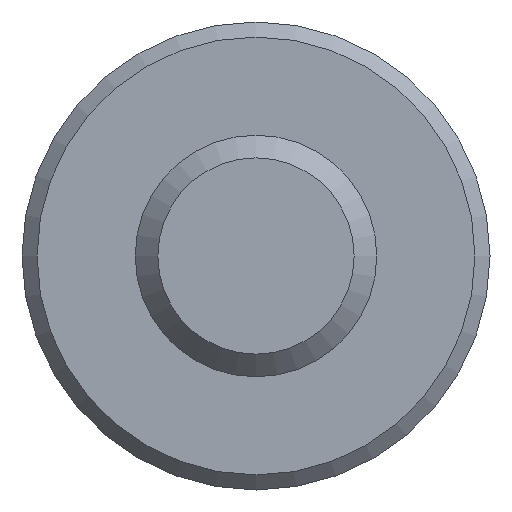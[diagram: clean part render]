
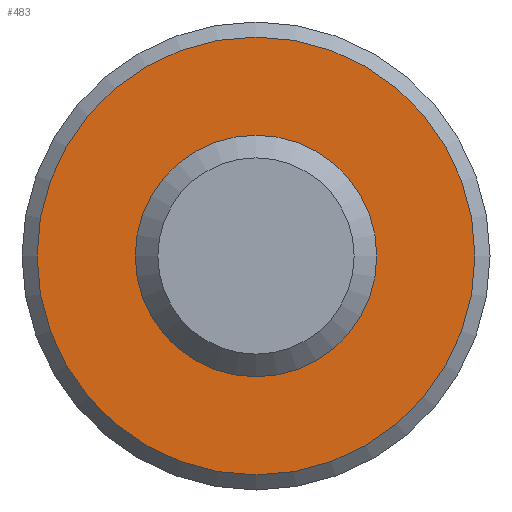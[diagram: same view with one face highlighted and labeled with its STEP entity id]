
A CAD part, front view. The second image highlights one B-rep face of the part: STEP entity #483.
In plain terms, the highlighted planar face has unit normal (0, -1, 0).
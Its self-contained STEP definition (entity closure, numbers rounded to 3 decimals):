
#18 = VERTEX_POINT ( 'NONE', #509 ) ;
#32 = AXIS2_PLACEMENT_3D ( 'NONE', #86, #547, #277 ) ;
#71 = DIRECTION ( 'NONE',  ( 0., -1., 0. ) ) ;
#86 = CARTESIAN_POINT ( 'NONE',  ( -1.55, 5.8, 0. ) ) ;
#147 = ORIENTED_EDGE ( 'NONE', *, *, #392, .T. ) ;
#215 = ORIENTED_EDGE ( 'NONE', *, *, #501, .F. ) ;
#218 = VERTEX_POINT ( 'NONE', #293 ) ;
#226 = CARTESIAN_POINT ( 'NONE',  ( 0., 5.8, 0. ) ) ;
#258 = FACE_OUTER_BOUND ( 'NONE', #533, .T. ) ;
#277 = DIRECTION ( 'NONE',  ( 0., 0., 1. ) ) ;
#293 = CARTESIAN_POINT ( 'NONE',  ( 0., 5.8, -0.8 ) ) ;
#327 = PLANE ( 'NONE',  #32 ) ;
#336 = CIRCLE ( 'NONE', #386, 0.8 ) ;
#369 = AXIS2_PLACEMENT_3D ( 'NONE', #479, #71, #401 ) ;
#378 = CIRCLE ( 'NONE', #369, 1.45 ) ;
#386 = AXIS2_PLACEMENT_3D ( 'NONE', #226, #544, #587 ) ;
#392 = EDGE_CURVE ( 'NONE', #18, #18, #378, .T. ) ;
#401 = DIRECTION ( 'NONE',  ( 0., 0., 1. ) ) ;
#477 = FACE_BOUND ( 'NONE', #532, .T. ) ;
#479 = CARTESIAN_POINT ( 'NONE',  ( 0., 5.8, 0. ) ) ;
#483 = ADVANCED_FACE ( 'NONE', ( #258, #477 ), #327, .F. ) ;
#501 = EDGE_CURVE ( 'NONE', #218, #218, #336, .T. ) ;
#509 = CARTESIAN_POINT ( 'NONE',  ( 0., 5.8, 1.45 ) ) ;
#532 = EDGE_LOOP ( 'NONE', ( #215 ) ) ;
#533 = EDGE_LOOP ( 'NONE', ( #147 ) ) ;
#544 = DIRECTION ( 'NONE',  ( 0., -1., 0. ) ) ;
#547 = DIRECTION ( 'NONE',  ( 0., 1., 0. ) ) ;
#587 = DIRECTION ( 'NONE',  ( 0., 0., -1. ) ) ;
